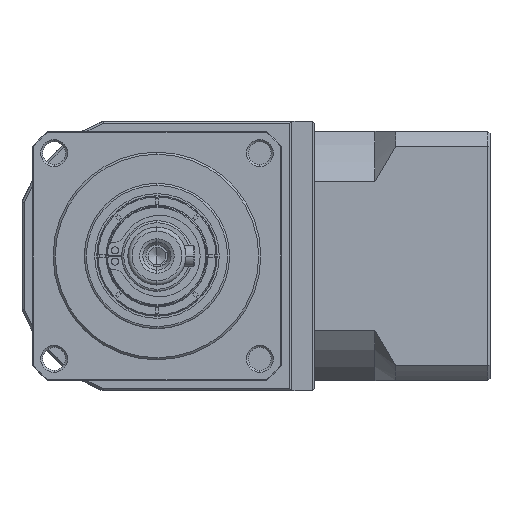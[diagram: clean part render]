
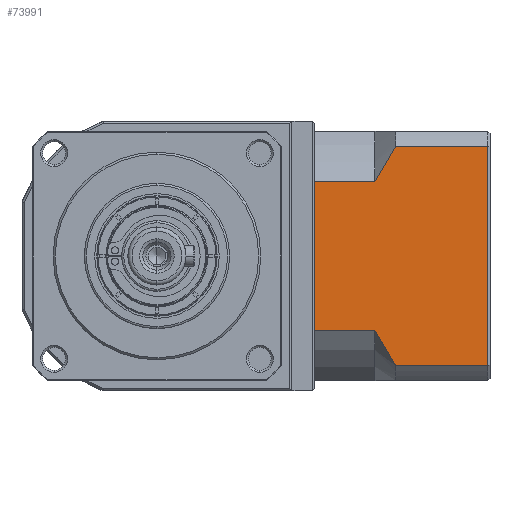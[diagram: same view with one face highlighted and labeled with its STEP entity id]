
A CAD part, left-side view. The second image highlights one B-rep face of the part: STEP entity #73991.
In plain terms, the highlighted planar face has unit normal (-1, 0, 0).
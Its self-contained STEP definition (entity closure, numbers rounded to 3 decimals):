
#3975 = B_SPLINE_CURVE_WITH_KNOTS ( 'NONE', 3,
 ( #102041, #78813, #17020, #103614, #29483, #116122 ),
 .UNSPECIFIED., .F., .F.,
 ( 4, 2, 4 ),
 ( 0.052, 0.057, 0.062 ),
 .UNSPECIFIED. ) ;
#8931 = B_SPLINE_CURVE_WITH_KNOTS ( 'NONE', 3,
 ( #81103, #105388, #93540, #19302, #105926, #31751 ),
 .UNSPECIFIED., .F., .F.,
 ( 4, 2, 4 ),
 ( 0.1, 0.104, 0.109 ),
 .UNSPECIFIED. ) ;
#14236 = DIRECTION ( 'NONE',  ( 0., -1., 0. ) ) ;
#17020 = CARTESIAN_POINT ( 'NONE',  ( -17.243, -87.95, -97.966 ) ) ;
#19302 = CARTESIAN_POINT ( 'NONE',  ( -17.243, -87.948, -145.4 ) ) ;
#23667 = ORIENTED_EDGE ( 'NONE', *, *, #107580, .T. ) ;
#26758 = CARTESIAN_POINT ( 'NONE',  ( -17.243, -84.723, -148.143 ) ) ;
#29276 = CARTESIAN_POINT ( 'NONE',  ( -17.243, -70.223, -151.685 ) ) ;
#29483 = CARTESIAN_POINT ( 'NONE',  ( -17.243, -85.471, -102.205 ) ) ;
#31222 = VERTEX_POINT ( 'NONE', #31918 ) ;
#31751 = CARTESIAN_POINT ( 'NONE',  ( -17.243, -89.723, -148.143 ) ) ;
#31918 = CARTESIAN_POINT ( 'NONE',  ( -17.243, -89.723, -148.143 ) ) ;
#33041 = FACE_OUTER_BOUND ( 'NONE', #122856, .T. ) ;
#36898 = CARTESIAN_POINT ( 'NONE',  ( -17.243, -111.923, -95.228 ) ) ;
#37097 = ORIENTED_EDGE ( 'NONE', *, *, #125433, .T. ) ;
#41226 = DIRECTION ( 'NONE',  ( 0., 0., -1. ) ) ;
#41285 = ORIENTED_EDGE ( 'NONE', *, *, #87761, .F. ) ;
#46858 = DIRECTION ( 'NONE',  ( 0., 1., 0. ) ) ;
#50028 = CARTESIAN_POINT ( 'NONE',  ( -17.243, -111.923, -151.685 ) ) ;
#52540 = ORIENTED_EDGE ( 'NONE', *, *, #151130, .F. ) ;
#54973 = ORIENTED_EDGE ( 'NONE', *, *, #73314, .T. ) ;
#55741 = EDGE_CURVE ( 'NONE', #135974, #155809, #75954, .T. ) ;
#62351 = VECTOR ( 'NONE', #14236, 1000. ) ;
#62967 = LINE ( 'NONE', #26758, #128699 ) ;
#70529 = DIRECTION ( 'NONE',  ( 1., 0., 0. ) ) ;
#71014 = VERTEX_POINT ( 'NONE', #111941 ) ;
#72289 = CARTESIAN_POINT ( 'NONE',  ( -17.243, -84.723, -95.228 ) ) ;
#73314 = EDGE_CURVE ( 'NONE', #122649, #96316, #139709, .T. ) ;
#73952 = VECTOR ( 'NONE', #41226, 1000. ) ;
#73991 = ADVANCED_FACE ( 'NONE', ( #33041 ), #81913, .F. ) ;
#74343 = DIRECTION ( 'NONE',  ( 0., 0., 1. ) ) ;
#75846 = ORIENTED_EDGE ( 'NONE', *, *, #138869, .T. ) ;
#75954 = LINE ( 'NONE', #72289, #141639 ) ;
#78813 = CARTESIAN_POINT ( 'NONE',  ( -17.243, -88.823, -96.588 ) ) ;
#79162 = LINE ( 'NONE', #50028, #144831 ) ;
#81103 = CARTESIAN_POINT ( 'NONE',  ( -17.243, -84.723, -139.713 ) ) ;
#81374 = ORIENTED_EDGE ( 'NONE', *, *, #158670, .F. ) ;
#81913 = PLANE ( 'NONE',  #118492 ) ;
#84108 = DIRECTION ( 'NONE',  ( 0., -1., 0. ) ) ;
#86798 = CARTESIAN_POINT ( 'NONE',  ( -17.243, -111.923, -148.143 ) ) ;
#87761 = EDGE_CURVE ( 'NONE', #122649, #71014, #112632, .T. ) ;
#88422 = CARTESIAN_POINT ( 'NONE',  ( -17.243, -84.723, -103.657 ) ) ;
#90939 = LINE ( 'NONE', #142047, #156617 ) ;
#93540 = CARTESIAN_POINT ( 'NONE',  ( -17.243, -86.274, -142.595 ) ) ;
#96316 = VERTEX_POINT ( 'NONE', #100292 ) ;
#100292 = CARTESIAN_POINT ( 'NONE',  ( -17.243, -70.223, -139.713 ) ) ;
#102041 = CARTESIAN_POINT ( 'NONE',  ( -17.243, -89.723, -95.228 ) ) ;
#103080 = VERTEX_POINT ( 'NONE', #86798 ) ;
#103614 = CARTESIAN_POINT ( 'NONE',  ( -17.243, -86.274, -100.774 ) ) ;
#105141 = CARTESIAN_POINT ( 'NONE',  ( -17.243, -70.223, -103.657 ) ) ;
#105388 = CARTESIAN_POINT ( 'NONE',  ( -17.243, -85.473, -141.169 ) ) ;
#105926 = CARTESIAN_POINT ( 'NONE',  ( -17.243, -88.822, -146.78 ) ) ;
#107580 = EDGE_CURVE ( 'NONE', #135974, #71014, #3975, .T. ) ;
#108327 = CARTESIAN_POINT ( 'NONE',  ( -17.243, -84.723, -139.713 ) ) ;
#111941 = CARTESIAN_POINT ( 'NONE',  ( -17.243, -84.723, -103.657 ) ) ;
#112632 = LINE ( 'NONE', #88422, #62351 ) ;
#113402 = DIRECTION ( 'NONE',  ( 0., 1., 0. ) ) ;
#116122 = CARTESIAN_POINT ( 'NONE',  ( -17.243, -84.723, -103.657 ) ) ;
#118492 = AXIS2_PLACEMENT_3D ( 'NONE', #144567, #70529, #156966 ) ;
#122649 = VERTEX_POINT ( 'NONE', #105141 ) ;
#122856 = EDGE_LOOP ( 'NONE', ( #52540, #37097, #141692, #23667, #41285, #54973, #81374, #75846 ) ) ;
#123497 = VERTEX_POINT ( 'NONE', #108327 ) ;
#125433 = EDGE_CURVE ( 'NONE', #103080, #155809, #79162, .T. ) ;
#128699 = VECTOR ( 'NONE', #113402, 1000. ) ;
#135974 = VERTEX_POINT ( 'NONE', #148514 ) ;
#138869 = EDGE_CURVE ( 'NONE', #123497, #31222, #8931, .T. ) ;
#139709 = LINE ( 'NONE', #29276, #73952 ) ;
#141639 = VECTOR ( 'NONE', #84108, 1000. ) ;
#141692 = ORIENTED_EDGE ( 'NONE', *, *, #55741, .F. ) ;
#142047 = CARTESIAN_POINT ( 'NONE',  ( -17.243, -84.723, -139.713 ) ) ;
#144567 = CARTESIAN_POINT ( 'NONE',  ( -17.243, -112.423, -151.685 ) ) ;
#144831 = VECTOR ( 'NONE', #74343, 1000. ) ;
#148514 = CARTESIAN_POINT ( 'NONE',  ( -17.243, -89.723, -95.228 ) ) ;
#151130 = EDGE_CURVE ( 'NONE', #103080, #31222, #62967, .T. ) ;
#155809 = VERTEX_POINT ( 'NONE', #36898 ) ;
#156617 = VECTOR ( 'NONE', #46858, 1000. ) ;
#156966 = DIRECTION ( 'NONE',  ( 0., 1., 0. ) ) ;
#158670 = EDGE_CURVE ( 'NONE', #123497, #96316, #90939, .T. ) ;
